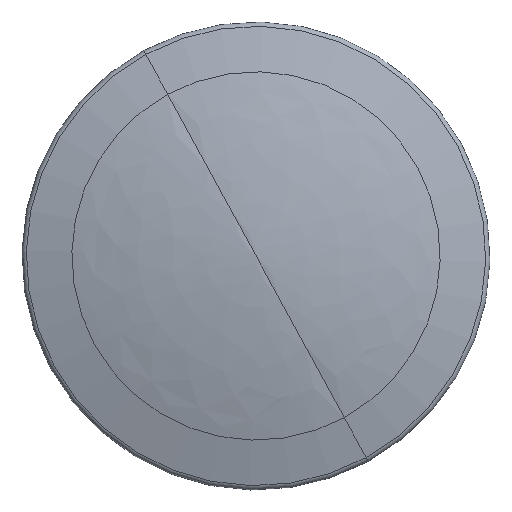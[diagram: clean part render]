
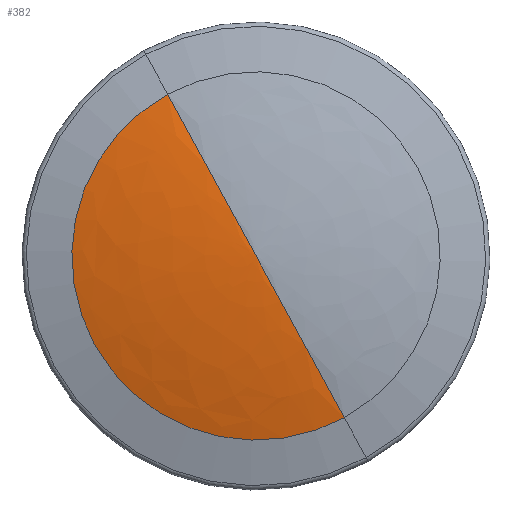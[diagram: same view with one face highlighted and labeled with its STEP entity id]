
A CAD part, top view. The second image highlights one B-rep face of the part: STEP entity #382.
In plain terms, the highlighted face is a revolution surface.
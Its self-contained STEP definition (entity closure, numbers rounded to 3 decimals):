
#329=CARTESIAN_POINT('Vertex',(-29.961,54.842,50.487)) ;
#332=CARTESIAN_POINT('Axis2P3D Location',(0.,0.,50.487)) ;
#336=CARTESIAN_POINT('Vertex',(29.961,-54.842,50.487)) ;
#352=CARTESIAN_POINT('Control Point',(0.,62.493,50.487)) ;
#353=CARTESIAN_POINT('Control Point',(0.,47.206,54.583)) ;
#354=CARTESIAN_POINT('Control Point',(0.,31.602,57.496)) ;
#355=CARTESIAN_POINT('Control Point',(0.,15.819,59.188)) ;
#356=CARTESIAN_POINT('Control Point',(0.,0.,59.656)) ;
#357=CARTESIAN_POINT('Axis1P Location',(0.,0.,45.07)) ;
#362=CARTESIAN_POINT('Control Point',(-29.961,54.842,50.487)) ;
#363=CARTESIAN_POINT('Control Point',(-22.632,41.427,54.583)) ;
#364=CARTESIAN_POINT('Control Point',(-15.151,27.733,57.496)) ;
#365=CARTESIAN_POINT('Control Point',(-7.584,13.883,59.188)) ;
#366=CARTESIAN_POINT('Control Point',(0.,0.,59.656)) ;
#367=CARTESIAN_POINT('Vertex',(0.,0.,59.656)) ;
#371=CARTESIAN_POINT('Control Point',(29.961,-54.842,50.487)) ;
#372=CARTESIAN_POINT('Control Point',(22.632,-41.427,54.583)) ;
#373=CARTESIAN_POINT('Control Point',(15.151,-27.733,57.496)) ;
#374=CARTESIAN_POINT('Control Point',(7.584,-13.883,59.188)) ;
#375=CARTESIAN_POINT('Control Point',(0.,0.,59.656)) ;
#333=DIRECTION('Axis2P3D Direction',(0.,0.,-1.)) ;
#358=DIRECTION('Axis1P Direction',(0.,0.,1.)) ;
#334=AXIS2_PLACEMENT_3D('Circle Axis2P3D',#332,#333,$) ;
#378=ORIENTED_EDGE('',*,*,#338,.F.) ;
#379=ORIENTED_EDGE('',*,*,#369,.T.) ;
#380=ORIENTED_EDGE('',*,*,#376,.F.) ;
#382=ADVANCED_FACE('Revolute.1',(#381),#360,.F.) ;
#359=AXIS1_PLACEMENT('Revolution Surface Axis1P',#357,#358) ;
#351=B_SPLINE_CURVE_WITH_KNOTS('',4,(#352,#353,#354,#355,#356),.UNSPECIFIED.,.F.,.U.,(5,5),(356.811,420.115),.UNSPECIFIED.) ;
#361=B_SPLINE_CURVE_WITH_KNOTS('',4,(#362,#363,#364,#365,#366),.UNSPECIFIED.,.F.,.U.,(5,5),(356.811,420.115),.UNSPECIFIED.) ;
#370=B_SPLINE_CURVE_WITH_KNOTS('',4,(#371,#372,#373,#374,#375),.UNSPECIFIED.,.F.,.U.,(5,5),(356.811,420.115),.UNSPECIFIED.) ;
#335=CIRCLE('generated circle',#334,62.493) ;
#338=EDGE_CURVE('',#330,#337,#335,.F.) ;
#369=EDGE_CURVE('',#330,#368,#361,.T.) ;
#376=EDGE_CURVE('',#337,#368,#370,.T.) ;
#377=EDGE_LOOP('',(#378,#379,#380)) ;
#381=FACE_OUTER_BOUND('',#377,.T.) ;
#360=SURFACE_OF_REVOLUTION('Surface of Revolution',#351,#359) ;
#330=VERTEX_POINT('',#329) ;
#337=VERTEX_POINT('',#336) ;
#368=VERTEX_POINT('',#367) ;
